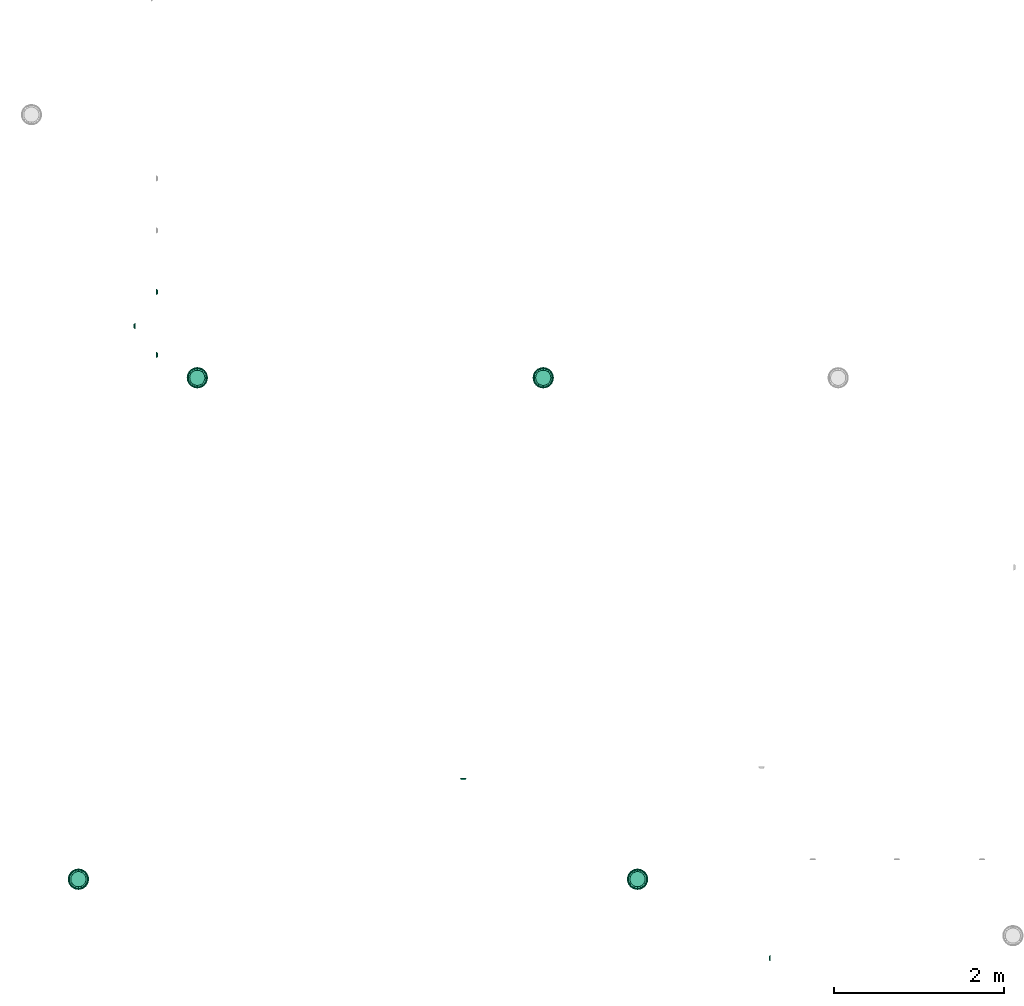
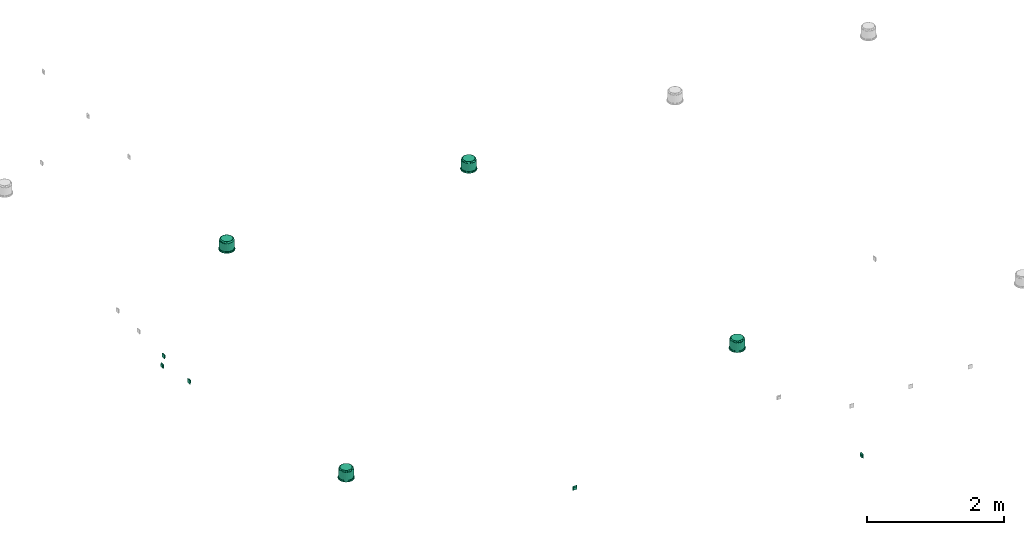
# One storey, part 1 of 5: 9 flow terminals.
"""IFC2X3 building model written with IfcOpenShell, lengths in millimetres."""

from ifc_helpers import new_model, entity, si_unit, converted_unit, derived_unit, direction, frame, origin_with_axes, place, context, subcontext, project, spatial, open_shell, surface_model, source, transform, mapped, type_object, element, save


model = new_model("IFC2X3")

# Units and contexts
model_context = context("Model", 3, precision=0.01, world=frame((0.0, 4.29681676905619e-09, 0.0)), true_north=direction((4.01073788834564e-13, 1.0)))
plan_context = context("Plan", 3, precision=0.01, world=frame((0.0, 4.29681676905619e-09, 0.0)), true_north=direction((4.01073788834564e-13, 1.0)))
body_context = subcontext(model_context, "Body", "Model", "MODEL_VIEW")
ifc_project = project(units=[converted_unit("PLANEANGLEUNIT", "DEGREE", entity("IfcPositiveLengthMeasure", 0.0174532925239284), si_unit("PLANEANGLEUNIT", "RADIAN"), dimensions=[0, 0, 0, 0, 0, 0, 0]), si_unit("AREAUNIT", "SQUARE_METRE"), si_unit("LENGTHUNIT", "METRE", prefix="MILLI"), si_unit("MASSUNIT", "GRAM", prefix="KILO"), si_unit("POWERUNIT", "WATT"), si_unit("PRESSUREUNIT", "PASCAL"), si_unit("FORCEUNIT", "NEWTON", prefix="KILO"), si_unit("ELECTRICVOLTAGEUNIT", "VOLT"), si_unit("ELECTRICCURRENTUNIT", "AMPERE"), si_unit("THERMODYNAMICTEMPERATUREUNIT", "DEGREE_CELSIUS"), si_unit("TIMEUNIT", "SECOND"), si_unit("VOLUMEUNIT", "CUBIC_METRE"), derived_unit("LINEARVELOCITYUNIT", [(si_unit("LENGTHUNIT", "METRE"), 1), (si_unit("TIMEUNIT", "SECOND"), -1)]), derived_unit("VOLUMETRICFLOWRATEUNIT", [(si_unit("VOLUMEUNIT", "CUBIC_METRE"), 1), (si_unit("TIMEUNIT", "SECOND"), -1)]), derived_unit("THERMALTRANSMITTANCEUNIT", [(si_unit("POWERUNIT", "WATT"), 1), (si_unit("THERMODYNAMICTEMPERATUREUNIT", "KELVIN"), -1), (si_unit("AREAUNIT", "SQUARE_METRE"), -1)]), derived_unit("SOUNDPRESSUREUNIT", [(si_unit("PRESSUREUNIT", "PASCAL"), 1)])], contexts=[model_context, plan_context])

# Site, building, storey
site_placement = place(None, frame((0.0, -4.29681676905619e-09, 0.0), z_axis=(0.0, 0.0, 1.0), x_axis=(1.0, 0.0, 0.0)))
site = spatial("IfcSite", under=ifc_project, at=site_placement, Name="ENGM", CompositionType="ELEMENT")
building_placement = place(site_placement, frame((0.0, 4.29681676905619e-09, 0.0), z_axis=(0.0, 0.0, 1.0), x_axis=(1.0, 0.0, 0.0)))
building = spatial("IfcBuilding", under=site, at=building_placement, Name="TS", CompositionType="ELEMENT")
storey_placement = place(building_placement, frame((0.0, 0.0, 210900.0), z_axis=(0.0, 0.0, 1.0), x_axis=(1.0, 0.0, 0.0)))
storey = spatial("IfcBuildingStorey", under=building, at=storey_placement, Name="Nivå F", CompositionType="ELEMENT", Elevation=210900.0)

# Flow terminals
outlet_type_1 = type_object("IfcOutletType", Name="Datauttak dobbel Vegg - IKT", PredefinedType="COMMUNICATIONSOUTLET")
shared_shape_1 = source(origin_with_axes(), body_context, "Body", "SurfaceModel", [
    surface_model("IfcShellBasedSurfaceModel", [(35.5, 5.05547, 35.5832), (25.5, 20.05547, 25.5832), (-35.5, 5.05547, 35.5832), (-25.5, 20.05547, 25.5832), (-35.5, 4.94453, 35.41679), (-25.5, 19.94453, 25.41679), (25.5, 19.94453, 25.41679), (35.5, 4.94453, 35.41679), (35.5, 4.94453, -35.41679), (25.5, 19.94453, -25.41679), (-35.5, 4.94453, -35.41679), (-25.5, 19.94453, -25.41679), (-35.5, 5.05547, -35.5832), (-25.5, 20.05547, -25.5832), (25.5, 20.05547, -25.5832), (35.5, 5.05547, -35.5832), (-25.5832, 20.05547, -25.5), (-35.5832, 5.05547, -35.5), (-35.5832, 5.05547, 35.5), (-25.5832, 20.05547, 25.5), (-25.41679, 19.94453, 25.5), (-35.41679, 4.94453, 35.5), (-25.41679, 19.94453, -25.5), (-35.41679, 4.94453, -35.5), (25.41679, 19.94453, -25.5), (35.41679, 4.94453, -35.5), (35.41679, 4.94453, 35.5), (25.41679, 19.94453, 25.5), (25.5832, 20.05547, 25.5), (35.5832, 5.05547, 35.5), (25.5832, 20.05547, -25.5), (35.5832, 5.05547, -35.5), (35.4, 5.0, -35.5), (35.4, 0.0, -35.5), (35.4, 0.0, 35.5), (35.4, 5.0, 35.5), (35.6, 5.0, 35.5), (35.6, 0.0, 35.5), (35.6, 0.0, -35.5), (35.6, 5.0, -35.5), (-35.5, 0.0, -35.6), (-35.5, 5.0, -35.6), (35.5, 5.0, -35.6), (35.5, 0.0, -35.6), (35.5, 0.0, -35.4), (35.5, 5.0, -35.4), (-35.5, 5.0, -35.4), (-35.5, 0.0, -35.4), (-35.6, 5.0, -35.5), (-35.6, 0.0, -35.5), (-35.6, 0.0, 35.5), (-35.6, 5.0, 35.5), (-35.4, 5.0, 35.5), (-35.4, 0.0, 35.5), (-35.4, 0.0, -35.5), (-35.4, 5.0, -35.5), (-35.5, -0.1, -35.5), (35.5, -0.1, -35.5), (35.5, -0.1, 35.5), (-35.5, -0.1, 35.5), (-35.5, 0.1, 35.5), (35.5, 0.1, 35.5), (35.5, 0.1, -35.5), (-35.5, 0.1, -35.5), (-35.5, 0.0, 35.4), (-35.5, 5.0, 35.4), (35.5, 5.0, 35.4), (35.5, 0.0, 35.4), (35.5, 0.0, 35.6), (35.5, 5.0, 35.6), (-35.5, 5.0, 35.6), (-35.5, 0.0, 35.6), (-25.5, 19.9, -25.5), (25.5, 19.9, -25.5), (25.5, 19.9, 25.5), (-25.5, 19.9, 25.5), (-25.5, 20.1, 25.5), (25.5, 20.1, 25.5), (25.5, 20.1, -25.5), (-25.5, 20.1, -25.5), (-25.5, 22.0, 25.5), (-25.5, 20.0, 25.5), (25.5, 20.0, 25.5), (25.5, 22.0, 25.5), (25.5, 22.0, 20.5), (25.5, 20.0, 20.5), (-25.5, 20.0, 20.5), (-25.5, 22.0, 20.5), (-25.5, 22.0, 10.5), (-25.5, 20.0, 10.5), (25.5, 20.0, 10.5), (25.5, 22.0, 10.5), (25.5, 22.0, -25.5), (25.5, 20.0, -25.5), (-25.5, 20.0, -25.5), (-25.5, 22.0, -25.5), (-17.5, 21.91, -6.5), (-2.5, 21.91, -6.5), (-17.5, 21.91, 8.5), (-2.5, 21.91, 8.5), (-17.5, 22.11, 8.5), (-2.5, 22.11, 8.5), (-17.5, 22.11, -6.5), (-2.5, 22.11, -6.5), (2.5, 21.91, -6.5), (17.5, 21.91, -6.5), (17.5, 21.91, 8.5), (2.5, 21.91, 8.5), (2.5, 22.11, 8.5), (17.5, 22.11, 8.5), (2.5, 22.11, -6.5), (17.5, 22.11, -6.5)], [open_shell([[[0, 1, 2]], [[3, 2, 1]], [[4, 5, 6]], [[6, 7, 4]], [[3, 1, 6]], [[6, 5, 3]], [[2, 3, 4]], [[5, 4, 3]], [[0, 2, 7]], [[4, 7, 2]], [[1, 0, 6]], [[7, 6, 0]], [[8, 9, 10]], [[11, 10, 9]], [[12, 13, 14]], [[14, 15, 12]], [[11, 9, 14]], [[14, 13, 11]], [[10, 11, 12]], [[13, 12, 11]], [[8, 10, 12]], [[12, 15, 8]], [[9, 8, 14]], [[15, 14, 8]], [[16, 17, 18]], [[18, 19, 16]], [[20, 21, 22]], [[23, 22, 21]], [[18, 17, 23]], [[23, 21, 18]], [[19, 18, 20]], [[21, 20, 18]], [[16, 19, 20]], [[20, 22, 16]], [[17, 16, 22]], [[22, 23, 17]], [[24, 25, 26]], [[26, 27, 24]], [[28, 29, 30]], [[31, 30, 29]], [[26, 25, 31]], [[31, 29, 26]], [[27, 26, 28]], [[29, 28, 26]], [[24, 27, 28]], [[28, 30, 24]], [[25, 24, 30]], [[30, 31, 25]], [[32, 33, 34]], [[34, 35, 32]], [[36, 37, 38]], [[38, 39, 36]], [[34, 33, 38]], [[38, 37, 34]], [[35, 34, 37]], [[37, 36, 35]], [[32, 35, 36]], [[36, 39, 32]], [[33, 32, 39]], [[39, 38, 33]], [[40, 41, 42]], [[42, 43, 40]], [[44, 45, 46]], [[46, 47, 44]], [[42, 41, 46]], [[46, 45, 42]], [[43, 42, 45]], [[45, 44, 43]], [[40, 43, 44]], [[44, 47, 40]], [[41, 40, 47]], [[47, 46, 41]], [[48, 49, 50]], [[50, 51, 48]], [[52, 53, 54]], [[54, 55, 52]], [[50, 49, 54]], [[54, 53, 50]], [[51, 50, 53]], [[53, 52, 51]], [[48, 51, 52]], [[52, 55, 48]], [[49, 48, 55]], [[55, 54, 49]], [[56, 57, 58]], [[58, 59, 56]], [[60, 61, 62]], [[62, 63, 60]], [[58, 57, 62]], [[62, 61, 58]], [[59, 58, 61]], [[61, 60, 59]], [[56, 59, 60]], [[60, 63, 56]], [[57, 56, 63]], [[63, 62, 57]], [[64, 65, 66]], [[66, 67, 64]], [[68, 69, 70]], [[70, 71, 68]], [[66, 65, 70]], [[70, 69, 66]], [[67, 66, 69]], [[69, 68, 67]], [[64, 67, 68]], [[68, 71, 64]], [[65, 64, 71]], [[71, 70, 65]], [[72, 73, 74]], [[74, 75, 72]], [[76, 77, 78]], [[78, 79, 76]], [[74, 73, 78]], [[78, 77, 74]], [[75, 74, 77]], [[77, 76, 75]], [[72, 75, 76]], [[76, 79, 72]], [[73, 72, 79]], [[79, 78, 73]], [[80, 81, 82]], [[82, 83, 80]], [[84, 85, 86]], [[86, 87, 84]], [[82, 81, 86]], [[86, 85, 82]], [[83, 82, 85]], [[85, 84, 83]], [[80, 83, 84]], [[84, 87, 80]], [[81, 80, 87]], [[87, 86, 81]], [[88, 89, 90]], [[90, 91, 88]], [[92, 93, 94]], [[94, 95, 92]], [[90, 89, 94]], [[94, 93, 90]], [[91, 90, 93]], [[93, 92, 91]], [[88, 91, 92]], [[92, 95, 88]], [[89, 88, 95]], [[95, 94, 89]], [[96, 97, 98]], [[99, 98, 97]], [[100, 101, 102]], [[103, 102, 101]], [[99, 97, 103]], [[103, 101, 99]], [[98, 99, 101]], [[101, 100, 98]], [[96, 98, 100]], [[100, 102, 96]], [[97, 96, 102]], [[102, 103, 97]], [[104, 105, 106]], [[106, 107, 104]], [[108, 109, 110]], [[111, 110, 109]], [[106, 105, 111]], [[111, 109, 106]], [[107, 106, 109]], [[109, 108, 107]], [[104, 107, 108]], [[108, 110, 104]], [[105, 104, 110]], [[110, 111, 105]]])]),
])
flow_terminal_1_placement = place(storey_placement, frame((523377.7, 449506.48481, 800.0), z_axis=(0.0, 0.0, 1.0), x_axis=(0.0, 1.0, 0.0)))
element("IfcFlowTerminal", 1, at=flow_terminal_1_placement, inside=storey, type_object=outlet_type_1, Name="Datauttak dobbel Vegg - IKT", context=body_context, shape_type="MappedRepresentation", body=[
    mapped(shared_shape_1, transform((0.0, 0.0, 0.0), scale=1.0)),
])
outlet_type_2 = type_object("IfcOutletType", Name="Data socket-2", PredefinedType="COMMUNICATIONSOUTLET")
flow_terminal_2_placement = place(storey_placement, frame((527243.90352, 444171.65538, 500.0), z_axis=(0.0, 0.0, 1.0), x_axis=(-1.0, 0.0, 0.0)))
element("IfcFlowTerminal", 2, at=flow_terminal_2_placement, inside=storey, type_object=outlet_type_2, Name="Data socket-2", context=body_context, shape_type="MappedRepresentation", body=[
    mapped(shared_shape_1, transform((0.0, 0.0, 0.0), scale=1.0)),
])
for number, where, z_axis, x_axis, name in (
    (3, (523618.6, 449908.77863, 638.5), (0.0, 0.0, 1.0), (0.0, -1.0, 0.0), "Datauttak dobbel Vegg - IKT"),
    (4, (523618.6, 449165.68527, 638.5), (0.0, 0.0, 1.0), (0.0, -1.0, 0.0), "Datauttak dobbel Vegg - IKT"),
    (5, (530871.10739, 442047.79103, 1100.0), (0.0, 0.0, 1.0), (0.0, 1.0, 0.0), "Datauttak dobbel Vegg - IKT"),
):
    element("IfcFlowTerminal", number, at=place(storey_placement, frame(where, z_axis=z_axis, x_axis=x_axis)), inside=storey, type_object=outlet_type_1, Name=name, context=body_context, shape_type="MappedRepresentation", body=[
        mapped(shared_shape_1, transform((0.0, 0.0, 0.0), scale=1.0)),
    ])
electric_appliance_type = type_object("IfcElectricApplianceType", Name="Høyttaler innfelt", PredefinedType="NOTDEFINED")
shared_shape_2 = source(origin_with_axes(), body_context, "Body", "SurfaceModel", [
    surface_model("IfcShellBasedSurfaceModel", [(-68.944, 57.85088, 184.0), (-58.59195, 79.97902, 179.50754), (-80.0329, 55.28406, 180.76938), (-78.29994, 75.83774, 166.88554), (-50.40099, 96.24365, 167.73947), (-65.24416, 89.80089, 159.0), (-45.0, 77.94229, 184.0), (104.29833, 0.0, 174.69059), (98.55658, 30.89802, 175.83351), (97.14917, 0.0, 179.3453), (-98.55658, 30.89802, 175.83351), (-104.29833, 0.0, 174.69059), (-97.14917, 0.0, 179.3453), (93.09772, 49.71788, 173.10261), (104.32878, 23.10743, 171.13623), (97.92626, 46.3605, 168.38431), (-15.62834, 88.6327, 184.0), (-30.79138, 92.23996, 180.78615), (-104.32878, 23.10743, 171.13623), (55.89313, 88.54638, 174.18746), (30.93861, 99.42219, 174.89528), (58.59195, 79.97902, 179.50754), (-97.92626, 46.3605, 168.38431), (-93.09772, 49.71788, 173.10261), (-61.47959, 85.0435, 173.90083), (-30.93861, 99.42219, 174.89528), (45.0, 77.94229, 184.0), (68.944, 57.85088, 184.0), (-84.57234, 30.78181, 184.0), (-92.49153, 28.27678, 181.10339), (-89.80089, 65.24416, 159.0), (17.39577, 107.47851, 167.19599), (34.30089, 105.56728, 159.0), (0.0, 111.0, 159.0), (-34.30089, 105.56728, 159.0), (-17.39574, 107.47094, 167.21376), (30.79138, 92.23996, 180.78615), (0.0, 99.14465, 179.50754), (15.62834, 88.6327, 184.0), (-81.90835, 64.40302, 174.81219), (0.05017, 105.30857, 173.41796), (80.0329, 55.28406, 180.76938), (84.57234, 30.78181, 184.0), (90.0, 0.0, 184.0), (92.49153, 28.27678, 181.10339), (50.40099, 96.24365, 167.73947), (89.80089, 65.24416, 159.0), (105.56728, 34.30089, 159.0), (65.24416, 89.80089, 159.0), (-105.56728, 34.30089, 159.0), (78.29994, 75.83774, 166.88554), (105.52114, 29.61929, 165.29825), (90.11049, 46.65977, 177.6147), (-90.11049, 46.65977, 177.6147), (-107.8502, 0.0, 166.3746), (-105.52114, 29.61929, 165.29825), (-90.0, 0.0, 184.0), (81.90835, 64.40302, 174.81219), (-111.0, 0.0, 159.0), (111.0, 0.0, 159.0), (107.8502, 0.0, 166.3746), (68.944, -57.85088, 184.0), (58.59195, -79.97902, 179.50754), (80.0329, -55.28406, 180.76938), (78.29994, -75.83774, 166.88554), (50.40099, -96.24365, 167.73947), (65.24416, -89.80089, 159.0), (45.0, -77.94229, 184.0), (-98.55658, -30.89802, 175.83351), (98.55658, -30.89802, 175.83351), (-93.09772, -49.71788, 173.10261), (-104.32878, -23.10743, 171.13623), (-97.92626, -46.3605, 168.38431), (15.62834, -88.6327, 184.0), (30.79138, -92.23996, 180.78615), (104.32878, -23.10743, 171.13623), (-55.89313, -88.54638, 174.18746), (-30.93861, -99.42219, 174.89528), (-58.59195, -79.97902, 179.50754), (97.92626, -46.3605, 168.38431), (93.09772, -49.71788, 173.10261), (61.47959, -85.0435, 173.90083), (30.93861, -99.42219, 174.89528), (-45.0, -77.94229, 184.0), (-68.944, -57.85088, 184.0), (84.57234, -30.78181, 184.0), (92.49153, -28.27678, 181.10339), (89.80089, -65.24416, 159.0), (-17.39577, -107.47851, 167.19599), (-34.30089, -105.56728, 159.0), (0.0, -111.0, 159.0), (34.30089, -105.56728, 159.0), (17.39574, -107.47094, 167.21376), (81.90835, -64.40302, 174.81219), (-30.79138, -92.23996, 180.78615), (-15.62834, -88.6327, 184.0), (0.0, -99.14465, 179.50754), (-0.05017, -105.30857, 173.41796), (-80.0329, -55.28406, 180.76938), (-84.57234, -30.78181, 184.0), (-92.49153, -28.27678, 181.10339), (-50.40099, -96.24365, 167.73947), (-89.80089, -65.24416, 159.0), (-105.56728, -34.30089, 159.0), (-65.24416, -89.80089, 159.0), (-78.29994, -75.83774, 166.88554), (-90.11049, -46.65977, 177.6147), (-105.52114, -29.61929, 165.29825), (105.56728, -34.30089, 159.0), (90.11049, -46.65977, 177.6147), (105.52114, -29.61929, 165.29825), (-81.90835, -64.40302, 174.81219), (0.0, 0.0, 159.0), (0.0, 0.0, 184.0), (96.12882, -55.5, 159.0), (28.72892, -107.21777, 159.0), (55.5, -96.12882, 159.0), (78.48885, -78.48885, 159.0), (107.21777, -28.72892, 159.0), (-78.48885, -78.48885, 159.0), (-96.12882, 55.5, 159.0), (-55.5, -96.12882, 159.0), (-28.72892, -107.21777, 159.0), (-96.12882, -55.5, 159.0), (-107.21777, -28.72892, 159.0), (107.21777, 28.72892, 159.0), (55.5, 96.12882, 159.0), (96.12882, 55.5, 159.0), (78.48885, 78.48885, 159.0), (28.72892, 107.21777, 159.0), (-28.72892, 107.21777, 159.0), (-107.21777, 28.72892, 159.0), (-78.48885, 78.48885, 159.0), (-55.5, 96.12882, 159.0), (28.72892, 107.21777, 20.0), (-28.72892, 107.21777, 20.0), (0.0, 111.0, 20.0), (96.12882, 55.5, 20.0), (55.5, 96.12882, 20.0), (107.21777, 28.72892, 20.0), (78.48885, 78.48885, 20.0), (-96.12882, 55.5, 20.0), (-78.48885, 78.48885, 20.0), (-55.5, 96.12882, 20.0), (-107.21777, 28.72892, 20.0), (-96.12882, -55.5, 20.0), (-111.0, 0.0, 20.0), (-78.48885, -78.48885, 20.0), (111.0, 0.0, 20.0), (107.21777, -28.72892, 20.0), (96.12882, -55.5, 20.0), (28.72892, -107.21777, 20.0), (55.5, -96.12882, 20.0), (78.48885, -78.48885, 20.0), (-107.21777, -28.72892, 20.0), (-55.5, -96.12882, 20.0), (0.0, -111.0, 20.0), (-28.72892, -107.21777, 20.0), (0.0, -118.0, 20.0), (30.54065, -113.97924, 20.0), (59.0, -102.191, 20.0), (83.4386, -83.4386, 20.0), (102.191, -59.0, 20.0), (113.97924, -30.54065, 20.0), (118.0, 0.0, 20.0), (-30.54065, -113.97924, 20.0), (-83.4386, -83.4386, 20.0), (-59.0, -102.191, 20.0), (-118.0, 0.0, 20.0), (-102.191, -59.0, 20.0), (-113.97924, -30.54065, 20.0), (113.97924, 30.54065, 20.0), (102.191, 59.0, 20.0), (83.4386, 83.4386, 20.0), (59.0, 102.191, 20.0), (30.54065, 113.97924, 20.0), (0.0, 118.0, 20.0), (-30.54065, 113.97924, 20.0), (-102.191, 59.0, 20.0), (-113.97924, 30.54065, 20.0), (-83.4386, 83.4386, 20.0), (-59.0, 102.191, 20.0), (0.0, 118.0, 0.0), (30.54065, 113.97924, 0.0), (59.0, 102.191, 0.0), (-83.4386, 83.4386, 0.0), (83.4386, 83.4386, 0.0), (102.191, 59.0, 0.0), (113.97924, 30.54065, 0.0), (-118.0, 0.0, 0.0), (-113.97924, -30.54065, 0.0), (-30.54065, 113.97924, 0.0), (-59.0, 102.191, 0.0), (-102.191, 59.0, 0.0), (-113.97924, 30.54065, 0.0), (118.0, 0.0, 0.0), (113.97924, -30.54065, 0.0), (102.191, -59.0, 0.0), (83.4386, -83.4386, 0.0), (59.0, -102.191, 0.0), (30.54065, -113.97924, 0.0), (-83.4386, -83.4386, 0.0), (-102.191, -59.0, 0.0), (-30.54065, -113.97924, 0.0), (-59.0, -102.191, 0.0), (0.0, -118.0, 0.0), (-32.35238, 120.74073, 0.0), (-62.5, 108.25318, 0.0), (-88.38835, 88.38835, 0.0), (-108.25318, 62.5, 0.0), (-120.74073, 32.35238, 0.0), (62.5, 108.25318, 0.0), (-125.0, 0.0, 0.0), (0.0, 125.0, 0.0), (32.35238, 120.74073, 0.0), (88.38835, 88.38835, 0.0), (120.74073, 32.35238, 0.0), (108.25318, 62.5, 0.0), (-120.74073, -32.35238, 0.0), (125.0, 0.0, 0.0), (-108.25318, -62.5, 0.0), (-32.35238, -120.74073, 0.0), (-88.38835, -88.38835, 0.0), (-62.5, -108.25318, 0.0), (0.0, -125.0, 0.0), (120.74073, -32.35238, 0.0), (88.38835, -88.38835, 0.0), (108.25318, -62.5, 0.0), (32.35238, -120.74073, 0.0), (62.5, -108.25318, 0.0), (-32.35238, -120.74073, -3.0), (88.38835, -88.38835, -3.0), (0.0, -125.0, -3.0), (-88.38835, -88.38835, -3.0), (-62.5, -108.25318, -3.0), (-108.25318, -62.5, -3.0), (-120.74073, -32.35238, -3.0), (88.38835, 88.38835, -3.0), (32.35238, -120.74073, -3.0), (62.5, -108.25318, -3.0), (120.74073, -32.35238, -3.0), (108.25318, -62.5, -3.0), (125.0, 0.0, -3.0), (-125.0, 0.0, -3.0), (-120.74073, 32.35238, -3.0), (-32.35238, 120.74073, -3.0), (-108.25318, 62.5, -3.0), (-88.38835, 88.38835, -3.0), (-62.5, 108.25318, -3.0), (120.74073, 32.35238, -3.0), (108.25318, 62.5, -3.0), (62.5, 108.25318, -3.0), (0.0, 125.0, -3.0), (32.35238, 120.74073, -3.0), (-84.57234, 30.78181, -6.0), (-102.5, 0.0, -5.0), (-96.31849, 35.05706, -5.0), (-45.0, 77.94229, -6.0), (-78.51955, 65.88573, -5.0), (-51.25, 88.7676, -5.0), (-68.944, 57.85088, -6.0), (-17.79894, 100.94279, -5.0), (-15.62834, 88.6327, -6.0), (-90.0, 0.0, -6.0), (15.62834, 88.6327, -6.0), (45.0, 77.94229, -6.0), (17.79894, 100.94279, -5.0), (51.25, 88.7676, -5.0), (96.31849, 35.05706, -5.0), (102.5, 0.0, -5.0), (90.0, 0.0, -6.0), (78.51955, 65.88573, -5.0), (68.944, 57.85088, -6.0), (84.57234, 30.78181, -6.0), (84.57234, -30.78181, -6.0), (96.31849, -35.05706, -5.0), (45.0, -77.94229, -6.0), (78.51955, -65.88573, -5.0), (51.25, -88.7676, -5.0), (68.944, -57.85088, -6.0), (17.79894, -100.94279, -5.0), (15.62834, -88.6327, -6.0), (-15.62834, -88.6327, -6.0), (-45.0, -77.94229, -6.0), (-17.79894, -100.94279, -5.0), (-51.25, -88.7676, -5.0), (-84.57234, -30.78181, -6.0), (-78.51955, -65.88573, -5.0), (-96.31849, -35.05706, -5.0), (-68.944, -57.85088, -6.0), (0.0, 0.0, -6.0), (106.99386, 34.76441, -3.0), (0.0, 0.0, -3.0), (112.5, 0.0, -3.0), (91.01441, 66.12584, -3.0), (66.12584, 91.01441, -3.0), (34.76441, 106.99386, -3.0), (0.0, 112.5, -3.0), (-91.01441, 66.12584, -3.0), (-106.99386, 34.76441, -3.0), (-66.12584, 91.01441, -3.0), (-34.76441, 106.99386, -3.0), (-112.5, 0.0, -3.0), (66.12584, -91.01441, -3.0), (91.01441, -66.12584, -3.0), (34.76441, -106.99386, -3.0), (106.99386, -34.76441, -3.0), (0.0, -112.5, -3.0), (-66.12584, -91.01441, -3.0), (-34.76441, -106.99386, -3.0), (-91.01441, -66.12584, -3.0), (-106.99386, -34.76441, -3.0)], [open_shell([[[0, 1, 2]], [[3, 4, 5]], [[0, 6, 1]], [[7, 8, 9]], [[10, 11, 12]], [[13, 14, 15]], [[7, 14, 8]], [[6, 16, 17]], [[18, 11, 10]], [[19, 20, 21]], [[22, 23, 3]], [[24, 25, 4]], [[26, 27, 21]], [[28, 2, 29]], [[3, 5, 30]], [[31, 32, 33]], [[33, 34, 35]], [[36, 37, 38]], [[4, 35, 34]], [[1, 24, 39]], [[26, 36, 38]], [[17, 37, 25]], [[20, 31, 40]], [[21, 20, 36]], [[41, 21, 27]], [[41, 27, 42]], [[0, 2, 28]], [[43, 9, 44]], [[20, 19, 45]], [[46, 15, 47]], [[17, 1, 6]], [[31, 20, 45]], [[48, 32, 45]], [[30, 49, 22]], [[34, 5, 4]], [[15, 46, 50]], [[14, 51, 15]], [[48, 50, 46]], [[33, 35, 31]], [[8, 13, 52]], [[2, 39, 53]], [[37, 16, 38]], [[54, 18, 55]], [[28, 29, 56]], [[45, 19, 50]], [[37, 17, 16]], [[1, 17, 25]], [[21, 36, 26]], [[37, 36, 20]], [[1, 39, 2]], [[23, 53, 39]], [[44, 41, 42]], [[57, 21, 41]], [[10, 12, 29]], [[22, 18, 23]], [[13, 8, 14]], [[52, 41, 44]], [[4, 25, 35]], [[25, 37, 40]], [[31, 35, 40]], [[45, 32, 31]], [[22, 3, 30]], [[3, 39, 24]], [[45, 50, 48]], [[50, 57, 13]], [[58, 54, 55]], [[23, 18, 10]], [[59, 47, 51]], [[56, 29, 12]], [[43, 44, 42]], [[8, 44, 9]], [[25, 40, 35]], [[20, 40, 37]], [[25, 24, 1]], [[3, 24, 4]], [[21, 57, 19]], [[50, 19, 57]], [[53, 23, 10]], [[3, 23, 39]], [[10, 29, 53]], [[2, 53, 29]], [[50, 13, 15]], [[52, 13, 57]], [[41, 52, 57]], [[44, 8, 52]], [[55, 18, 22]], [[54, 11, 18]], [[22, 49, 55]], [[55, 49, 58]], [[7, 60, 14]], [[60, 59, 51]], [[60, 51, 14]], [[47, 15, 51]], [[61, 62, 63]], [[64, 65, 66]], [[61, 67, 62]], [[11, 68, 12]], [[69, 7, 9]], [[70, 71, 72]], [[11, 71, 68]], [[67, 73, 74]], [[75, 7, 69]], [[76, 77, 78]], [[79, 80, 64]], [[81, 82, 65]], [[83, 84, 78]], [[85, 63, 86]], [[64, 66, 87]], [[88, 89, 90]], [[90, 91, 92]], [[91, 66, 65]], [[65, 92, 91]], [[62, 81, 93]], [[83, 94, 95]], [[74, 96, 82]], [[77, 88, 97]], [[78, 77, 94]], [[98, 78, 84]], [[98, 84, 99]], [[61, 63, 85]], [[56, 12, 100]], [[77, 76, 101]], [[102, 72, 103]], [[104, 105, 102]], [[88, 77, 101]], [[104, 89, 101]], [[68, 70, 106]], [[74, 62, 67]], [[72, 102, 105]], [[71, 107, 72]], [[87, 108, 79]], [[90, 92, 88]], [[94, 96, 95]], [[63, 93, 109]], [[96, 73, 95]], [[60, 75, 110]], [[85, 86, 43]], [[101, 76, 105]], [[96, 74, 73]], [[62, 74, 82]], [[78, 94, 83]], [[96, 94, 77]], [[62, 93, 63]], [[80, 109, 93]], [[100, 98, 99]], [[111, 78, 98]], [[69, 9, 86]], [[79, 75, 80]], [[70, 68, 71]], [[106, 98, 100]], [[65, 82, 92]], [[82, 96, 97]], [[88, 92, 97]], [[101, 89, 88]], [[79, 64, 87]], [[64, 93, 81]], [[101, 105, 104]], [[105, 111, 70]], [[59, 60, 110]], [[80, 75, 69]], [[58, 103, 107]], [[43, 86, 9]], [[56, 100, 99]], [[68, 100, 12]], [[82, 97, 92]], [[77, 97, 96]], [[82, 81, 62]], [[64, 81, 65]], [[78, 111, 76]], [[105, 76, 111]], [[109, 80, 69]], [[64, 80, 93]], [[69, 86, 109]], [[63, 109, 86]], [[105, 70, 72]], [[106, 70, 111]], [[98, 106, 111]], [[100, 68, 106]], [[110, 75, 79]], [[60, 7, 75]], [[79, 108, 110]], [[110, 108, 59]], [[11, 54, 71]], [[54, 58, 107]], [[54, 107, 71]], [[103, 72, 107]], [[59, 112, 47]], [[47, 112, 46]], [[112, 48, 46]], [[48, 112, 32]], [[112, 33, 32]], [[112, 49, 30]], [[30, 5, 112]], [[34, 33, 112]], [[112, 5, 34]], [[112, 58, 49]], [[112, 87, 66]], [[112, 66, 91]], [[112, 108, 87]], [[59, 108, 112]], [[91, 90, 112]], [[112, 89, 104]], [[112, 104, 102]], [[112, 103, 58]], [[103, 112, 102]], [[89, 112, 90]], [[27, 113, 42]], [[26, 113, 27]], [[113, 26, 38]], [[113, 43, 42]], [[28, 56, 113]], [[0, 28, 113]], [[16, 6, 113]], [[0, 113, 6]], [[38, 16, 113]], [[67, 61, 113]], [[61, 85, 113]], [[113, 85, 43]], [[73, 67, 113]], [[83, 95, 113]], [[84, 83, 113]], [[56, 99, 113]], [[84, 113, 99]], [[73, 113, 95]], [[114, 115, 116]], [[114, 116, 117]], [[114, 118, 59]], [[114, 59, 115]], [[119, 115, 120]], [[90, 121, 122]], [[90, 115, 121]], [[123, 58, 124]], [[121, 115, 119]], [[123, 119, 58]], [[125, 115, 59]], [[126, 125, 127]], [[126, 127, 128]], [[125, 129, 120]], [[129, 125, 126]], [[130, 129, 33]], [[119, 131, 58]], [[120, 131, 119]], [[132, 130, 133]], [[130, 132, 120]], [[129, 130, 120]], [[120, 115, 125]], [[134, 135, 136]], [[137, 134, 138]], [[137, 139, 134]], [[137, 138, 140]], [[141, 134, 139]], [[135, 142, 143]], [[142, 135, 141]], [[144, 145, 146]], [[141, 135, 134]], [[144, 141, 145]], [[141, 139, 147]], [[148, 149, 150]], [[150, 151, 139]], [[152, 151, 150]], [[152, 150, 153]], [[139, 151, 147]], [[146, 145, 154]], [[147, 145, 141]], [[155, 156, 157]], [[155, 147, 151]], [[156, 155, 151]], [[139, 148, 150]], [[124, 154, 145]], [[147, 123, 145]], [[121, 155, 157]], [[147, 155, 119]], [[122, 157, 156]], [[154, 58, 146]], [[154, 124, 58]], [[145, 123, 124]], [[147, 119, 123]], [[121, 119, 155]], [[157, 122, 121]], [[156, 90, 122]], [[115, 151, 152]], [[153, 116, 152]], [[114, 150, 149]], [[153, 150, 117]], [[118, 149, 148]], [[151, 115, 90]], [[152, 116, 115]], [[153, 117, 116]], [[150, 114, 117]], [[118, 114, 149]], [[148, 59, 118]], [[151, 90, 156]], [[125, 148, 139]], [[127, 139, 137]], [[126, 138, 134]], [[129, 134, 136]], [[139, 127, 125]], [[125, 59, 148]], [[140, 128, 127]], [[140, 138, 128]], [[128, 138, 126]], [[134, 129, 126]], [[140, 127, 137]], [[136, 33, 129]], [[130, 135, 143]], [[142, 133, 143]], [[120, 141, 144]], [[142, 141, 132]], [[131, 144, 146]], [[135, 130, 33]], [[143, 133, 130]], [[142, 132, 133]], [[141, 120, 132]], [[131, 120, 144]], [[146, 58, 131]], [[135, 33, 136]], [[158, 159, 160]], [[161, 158, 160]], [[162, 163, 164]], [[158, 161, 162]], [[158, 162, 164]], [[165, 166, 167]], [[166, 165, 158]], [[164, 166, 158]], [[166, 168, 169]], [[169, 168, 170]], [[168, 166, 164]], [[171, 172, 173]], [[168, 171, 173]], [[174, 175, 176]], [[168, 173, 174]], [[177, 174, 176]], [[168, 178, 179]], [[178, 168, 177]], [[180, 177, 181]], [[177, 180, 178]], [[168, 174, 177]], [[171, 168, 164]], [[182, 183, 184]], [[185, 182, 184]], [[186, 187, 188]], [[189, 184, 186]], [[190, 189, 186]], [[191, 185, 192]], [[191, 182, 185]], [[193, 189, 194]], [[185, 184, 193]], [[184, 189, 193]], [[186, 188, 190]], [[195, 196, 197]], [[197, 198, 188]], [[190, 198, 199]], [[198, 190, 188]], [[200, 190, 199]], [[200, 201, 202]], [[202, 190, 200]], [[201, 203, 204]], [[203, 201, 205]], [[205, 201, 200]], [[188, 195, 197]], [[190, 170, 189]], [[202, 169, 190]], [[167, 201, 204]], [[202, 201, 166]], [[165, 204, 203]], [[190, 169, 170]], [[170, 168, 189]], [[165, 167, 204]], [[166, 201, 167]], [[166, 169, 202]], [[158, 165, 203]], [[203, 205, 158]], [[200, 159, 205]], [[199, 160, 200]], [[162, 198, 197]], [[199, 198, 161]], [[163, 197, 196]], [[199, 161, 160]], [[160, 159, 200]], [[164, 163, 196]], [[162, 197, 163]], [[162, 161, 198]], [[195, 164, 196]], [[205, 159, 158]], [[188, 171, 195]], [[187, 172, 188]], [[174, 186, 184]], [[187, 186, 173]], [[175, 184, 183]], [[188, 172, 171]], [[171, 164, 195]], [[175, 174, 184]], [[173, 186, 174]], [[173, 172, 187]], [[176, 175, 183]], [[183, 182, 176]], [[191, 177, 182]], [[192, 181, 191]], [[179, 194, 189]], [[185, 180, 192]], [[192, 180, 181]], [[181, 177, 191]], [[193, 178, 180]], [[193, 194, 178]], [[178, 194, 179]], [[189, 168, 179]], [[193, 180, 185]], [[182, 177, 176]], [[206, 207, 208]], [[206, 208, 209]], [[206, 210, 211]], [[210, 206, 209]], [[211, 210, 212]], [[213, 211, 214]], [[213, 206, 211]], [[215, 216, 217]], [[218, 215, 211]], [[219, 216, 215]], [[218, 211, 212]], [[220, 219, 218]], [[221, 220, 222]], [[220, 221, 219]], [[221, 222, 223]], [[224, 219, 221]], [[225, 226, 227]], [[226, 225, 219]], [[226, 228, 229]], [[228, 226, 219]], [[219, 224, 228]], [[218, 219, 215]], [[230, 231, 232]], [[233, 230, 234]], [[235, 236, 230]], [[235, 230, 233]], [[230, 237, 231]], [[238, 231, 239]], [[238, 232, 231]], [[231, 240, 241]], [[240, 231, 242]], [[231, 237, 242]], [[230, 236, 243]], [[244, 237, 243]], [[245, 244, 246]], [[247, 248, 245]], [[247, 245, 246]], [[237, 244, 245]], [[249, 237, 250]], [[242, 237, 249]], [[251, 252, 253]], [[252, 251, 237]], [[245, 252, 237]], [[237, 230, 243]], [[249, 216, 242]], [[250, 217, 249]], [[211, 237, 251]], [[250, 237, 215]], [[214, 251, 253]], [[249, 217, 216]], [[216, 219, 242]], [[214, 211, 251]], [[215, 237, 211]], [[215, 217, 250]], [[213, 214, 253]], [[253, 252, 213]], [[245, 206, 252]], [[248, 207, 245]], [[209, 247, 246]], [[248, 247, 208]], [[210, 246, 244]], [[248, 208, 207]], [[207, 206, 245]], [[212, 210, 244]], [[209, 246, 210]], [[209, 208, 247]], [[243, 212, 244]], [[252, 206, 213]], [[236, 218, 243]], [[235, 220, 236]], [[223, 233, 234]], [[235, 233, 222]], [[221, 234, 230]], [[236, 220, 218]], [[218, 212, 243]], [[221, 223, 234]], [[222, 233, 223]], [[222, 220, 235]], [[224, 221, 230]], [[230, 232, 224]], [[228, 232, 238]], [[239, 229, 238]], [[227, 241, 240]], [[225, 240, 242]], [[239, 226, 229]], [[229, 228, 238]], [[231, 227, 226]], [[231, 241, 227]], [[227, 240, 225]], [[242, 219, 225]], [[231, 226, 239]], [[232, 228, 224]], [[254, 255, 256]], [[257, 258, 259]], [[256, 258, 260]], [[259, 261, 262]], [[263, 255, 254]], [[258, 257, 260]], [[260, 254, 256]], [[257, 259, 262]], [[261, 264, 262]], [[265, 266, 267]], [[268, 269, 270]], [[267, 271, 272]], [[268, 272, 271]], [[264, 266, 265]], [[265, 267, 272]], [[270, 273, 268]], [[268, 273, 272]], [[266, 264, 261]], [[274, 269, 275]], [[276, 277, 278]], [[275, 277, 279]], [[278, 280, 281]], [[270, 269, 274]], [[277, 276, 279]], [[279, 274, 275]], [[276, 278, 281]], [[280, 282, 281]], [[283, 284, 285]], [[286, 287, 288]], [[285, 287, 289]], [[288, 255, 263]], [[282, 284, 283]], [[287, 286, 289]], [[289, 283, 285]], [[286, 288, 263]], [[284, 282, 280]], [[273, 290, 272]], [[272, 290, 265]], [[264, 265, 290]], [[273, 270, 290]], [[290, 263, 254]], [[290, 254, 260]], [[290, 257, 262]], [[257, 290, 260]], [[290, 262, 264]], [[290, 279, 276]], [[290, 274, 279]], [[270, 274, 290]], [[290, 276, 281]], [[290, 282, 283]], [[290, 283, 289]], [[290, 286, 263]], [[286, 290, 289]], [[282, 290, 281]], [[291, 292, 293]], [[294, 292, 291]], [[294, 295, 292]], [[296, 292, 295]], [[296, 297, 292]], [[298, 299, 292]], [[292, 300, 298]], [[292, 297, 301]], [[301, 300, 292]], [[299, 302, 292]], [[303, 304, 292]], [[305, 303, 292]], [[304, 306, 292]], [[292, 306, 293]], [[292, 307, 305]], [[308, 309, 292]], [[310, 308, 292]], [[302, 311, 292]], [[310, 292, 311]], [[307, 292, 309]], [[255, 302, 299]], [[258, 298, 300]], [[299, 298, 256]], [[300, 301, 259]], [[255, 299, 256]], [[300, 259, 258]], [[258, 256, 298]], [[259, 301, 261]], [[301, 297, 261]], [[266, 297, 296]], [[291, 293, 269]], [[267, 296, 295]], [[295, 271, 267]], [[267, 266, 296]], [[291, 268, 294]], [[268, 291, 269]], [[294, 268, 271]], [[294, 271, 295]], [[297, 266, 261]], [[269, 293, 306]], [[277, 304, 303]], [[306, 304, 275]], [[303, 305, 278]], [[269, 306, 275]], [[303, 278, 277]], [[277, 275, 304]], [[278, 305, 280]], [[305, 307, 280]], [[284, 307, 309]], [[287, 308, 310]], [[309, 308, 285]], [[310, 311, 288]], [[308, 287, 285]], [[285, 284, 309]], [[311, 255, 288]], [[288, 287, 310]], [[311, 302, 255]], [[307, 284, 280]]])]),
])
for number, where, z_axis, x_axis in (
    (6, (522703.42353, 442979.44432, 3000.0), (0.0, 0.0, 1.0), (1.0, 0.0, 0.0)),
    (7, (529300.2512, 442979.44432, 3000.0), (0.0, 0.0, 1.0), (1.0, 0.0, 0.0)),
    (8, (524106.04767, 448896.12843, 3000.0), (0.0, 0.0, 1.0), (1.0, 0.0, 0.0)),
    (9, (528187.62478, 448896.12843, 3000.0), (0.0, 0.0, 1.0), (1.0, 0.0, 0.0)),
):
    element("IfcFlowTerminal", number, at=place(storey_placement, frame(where, z_axis=z_axis, x_axis=x_axis)), inside=storey, type_object=electric_appliance_type, Name="Høyttaler innfelt", context=body_context, shape_type="MappedRepresentation", body=[
        mapped(shared_shape_2, transform((0.0, 0.0, 0.0), scale=1.0)),
    ])

save(model, "model.ifc")
